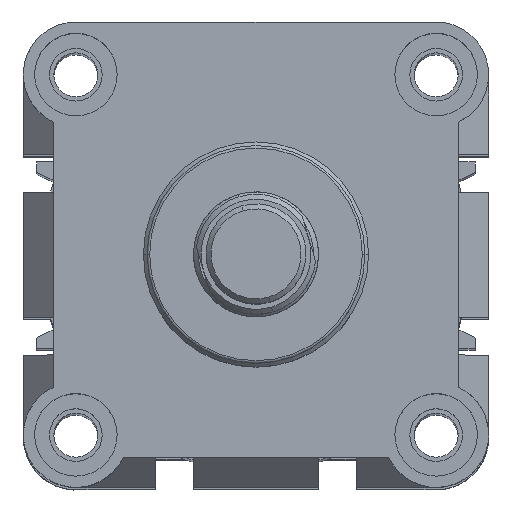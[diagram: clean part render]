
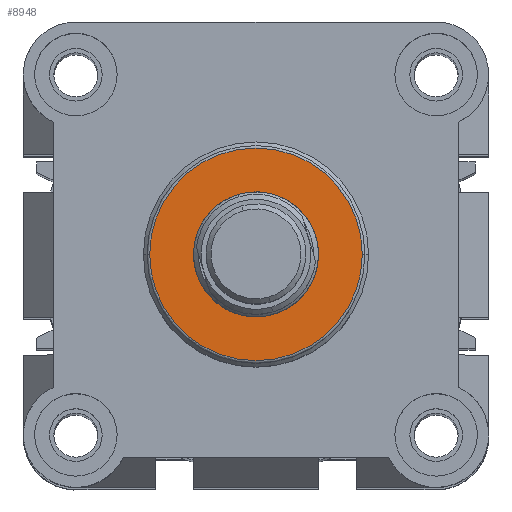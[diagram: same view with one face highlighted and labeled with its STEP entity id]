
A CAD part, top view. The second image highlights one B-rep face of the part: STEP entity #8948.
In plain terms, the highlighted planar face has unit normal (0, 0, 1) as drawn and (0, 0, -1) by its records, which use the part's own axes.
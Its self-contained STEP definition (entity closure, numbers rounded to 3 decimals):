
#506 = ORIENTED_EDGE ( 'NONE', *, *, #3710, .F. ) ;
#898 = EDGE_CURVE ( 'NONE', #14665, #17284, #17203, .T. ) ;
#955 = CARTESIAN_POINT ( 'NONE',  ( 67.75, 46.5, -34.7 ) ) ;
#3039 = CARTESIAN_POINT ( 'NONE',  ( 46.5, 46.5, -34.7 ) ) ;
#3710 = EDGE_CURVE ( 'NONE', #17461, #11293, #4921, .T. ) ;
#4024 = DIRECTION ( 'NONE',  ( -1., 0., 0. ) ) ;
#4098 = DIRECTION ( 'NONE',  ( 0., 0., -1. ) ) ;
#4315 = FACE_OUTER_BOUND ( 'NONE', #13652, .T. ) ;
#4336 = AXIS2_PLACEMENT_3D ( 'NONE', #10260, #4098, #14736 ) ;
#4921 = CIRCLE ( 'NONE', #5196, 12.5 ) ;
#5171 = DIRECTION ( 'NONE',  ( 0., 0., -1. ) ) ;
#5196 = AXIS2_PLACEMENT_3D ( 'NONE', #13195, #11608, #4024 ) ;
#5198 = CIRCLE ( 'NONE', #8048, 12.5 ) ;
#5605 = ORIENTED_EDGE ( 'NONE', *, *, #16431, .T. ) ;
#6623 = ORIENTED_EDGE ( 'NONE', *, *, #16689, .F. ) ;
#7583 = CARTESIAN_POINT ( 'NONE',  ( 34., 46.5, -34.7 ) ) ;
#7693 = PLANE ( 'NONE',  #15044 ) ;
#8048 = AXIS2_PLACEMENT_3D ( 'NONE', #12666, #5171, #18663 ) ;
#8453 = CARTESIAN_POINT ( 'NONE',  ( 59., 46.5, -34.7 ) ) ;
#8824 = ORIENTED_EDGE ( 'NONE', *, *, #898, .T. ) ;
#8948 = ADVANCED_FACE ( 'NONE', ( #12932, #4315 ), #7693, .T. ) ;
#10260 = CARTESIAN_POINT ( 'NONE',  ( 46.5, 46.5, -34.7 ) ) ;
#10456 = DIRECTION ( 'NONE',  ( 0., 0., -1. ) ) ;
#10883 = CARTESIAN_POINT ( 'NONE',  ( 46.5, 46.5, -34.7 ) ) ;
#11293 = VERTEX_POINT ( 'NONE', #8453 ) ;
#11396 = AXIS2_PLACEMENT_3D ( 'NONE', #10883, #12407, #13951 ) ;
#11608 = DIRECTION ( 'NONE',  ( 0., 0., -1. ) ) ;
#12407 = DIRECTION ( 'NONE',  ( 0., 0., -1. ) ) ;
#12666 = CARTESIAN_POINT ( 'NONE',  ( 46.5, 46.5, -34.7 ) ) ;
#12932 = FACE_BOUND ( 'NONE', #17598, .T. ) ;
#12963 = CARTESIAN_POINT ( 'NONE',  ( 25.25, 46.5, -34.7 ) ) ;
#13195 = CARTESIAN_POINT ( 'NONE',  ( 46.5, 46.5, -34.7 ) ) ;
#13652 = EDGE_LOOP ( 'NONE', ( #5605, #8824 ) ) ;
#13951 = DIRECTION ( 'NONE',  ( -1., 0., 0. ) ) ;
#14665 = VERTEX_POINT ( 'NONE', #955 ) ;
#14736 = DIRECTION ( 'NONE',  ( -1., 0., 0. ) ) ;
#15044 = AXIS2_PLACEMENT_3D ( 'NONE', #3039, #10456, #16715 ) ;
#15483 = CIRCLE ( 'NONE', #4336, 21.25 ) ;
#16431 = EDGE_CURVE ( 'NONE', #17284, #14665, #15483, .T. ) ;
#16689 = EDGE_CURVE ( 'NONE', #11293, #17461, #5198, .T. ) ;
#16715 = DIRECTION ( 'NONE',  ( -1., 0., 0. ) ) ;
#17203 = CIRCLE ( 'NONE', #11396, 21.25 ) ;
#17284 = VERTEX_POINT ( 'NONE', #12963 ) ;
#17461 = VERTEX_POINT ( 'NONE', #7583 ) ;
#17598 = EDGE_LOOP ( 'NONE', ( #506, #6623 ) ) ;
#18663 = DIRECTION ( 'NONE',  ( -1., 0., 0. ) ) ;
